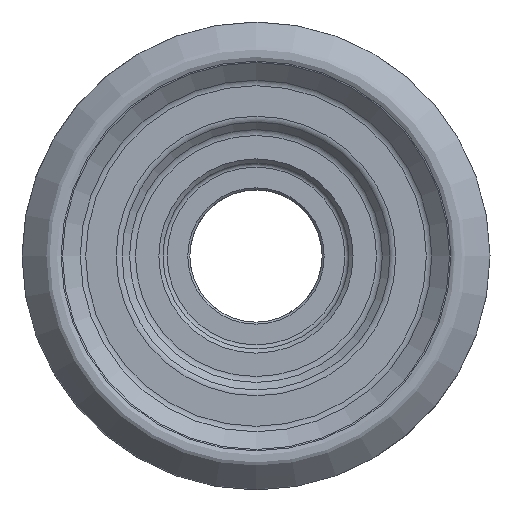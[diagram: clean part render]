
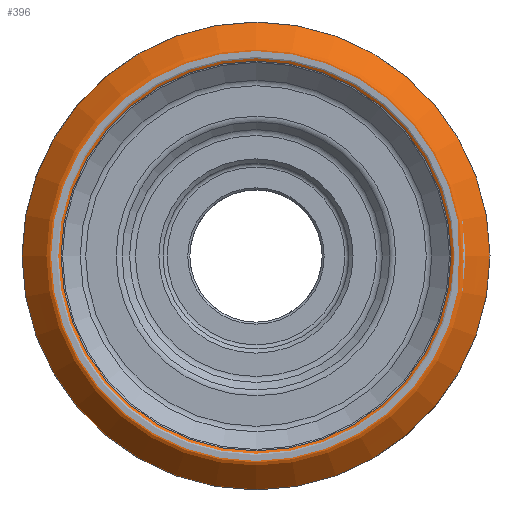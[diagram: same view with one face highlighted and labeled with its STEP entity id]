
A CAD part, left-side view. The second image highlights one B-rep face of the part: STEP entity #396.
In plain terms, the highlighted face is a revolution surface.
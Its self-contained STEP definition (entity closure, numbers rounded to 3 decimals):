
#78=SURFACE_OF_REVOLUTION('',#274,#85);
#85=AXIS1_PLACEMENT('',#1996,#1282);
#92=VERTEX_LOOP('',#822);
#274=B_SPLINE_CURVE_WITH_KNOTS('',3,(#1934,#1935,#1936,#1937,#1938,#1939,
#1940,#1941,#1942,#1943,#1944,#1945,#1946,#1947,#1948,#1949,#1950,#1951,
#1952,#1953,#1954,#1955,#1956,#1957,#1958,#1959,#1960,#1961,#1962,#1963,
#1964,#1965,#1966,#1967,#1968,#1969,#1970,#1971,#1972,#1973,#1974,#1975,
#1976,#1977,#1978,#1979,#1980,#1981,#1982,#1983,#1984,#1985,#1986,#1987,
#1988,#1989,#1990,#1991,#1992,#1993,#1994,#1995),.UNSPECIFIED.,.T.,.F.,
(2,2,2,2,2,2,2,2,2,2,2,2,2,2,2,2,2,2,2,2,2,2,2,2,2,2,2,2,2,2,2,2,2),(-0.031,
0.,0.016,0.031,0.047,0.062,
0.094,0.125,0.25,0.281,
0.297,0.312,0.328,0.344,
0.375,0.5,0.516,0.531,
0.562,0.578,0.594,0.625,
0.75,0.781,0.797,0.812,
0.828,0.844,0.875,0.938,0.969,1.,
1.016),.UNSPECIFIED.);
#337=FACE_BOUND('',#92,.T.);
#396=ADVANCED_FACE('',(#337),#78,.T.);
#822=VERTEX_POINT('',#1933);
#1282=DIRECTION('',(-1.,0.,0.));
#1933=CARTESIAN_POINT('',(0.388,-50.712,0.));
#1934=CARTESIAN_POINT('',(0.729,-51.047,0.));
#1935=CARTESIAN_POINT('',(0.217,-50.544,0.));
#1936=CARTESIAN_POINT('',(0.093,-50.334,0.));
#1937=CARTESIAN_POINT('',(-0.029,-49.878,0.));
#1938=CARTESIAN_POINT('',(-0.014,-49.635,0.));
#1939=CARTESIAN_POINT('',(-0.013,-49.161,0.));
#1940=CARTESIAN_POINT('',(-0.013,-48.923,0.));
#1941=CARTESIAN_POINT('',(-0.014,-48.449,0.));
#1942=CARTESIAN_POINT('',(-0.019,-48.206,0.));
#1943=CARTESIAN_POINT('',(0.178,-47.522,0.));
#1944=CARTESIAN_POINT('',(0.54,-47.18,0.));
#1945=CARTESIAN_POINT('',(1.155,-46.464,0.));
#1946=CARTESIAN_POINT('',(1.463,-46.106,0.));
#1947=CARTESIAN_POINT('',(3.001,-44.317,0.));
#1948=CARTESIAN_POINT('',(4.233,-42.887,0.));
#1949=CARTESIAN_POINT('',(5.773,-41.1,0.));
#1950=CARTESIAN_POINT('',(6.058,-40.684,0.));
#1951=CARTESIAN_POINT('',(6.71,-40.426,0.));
#1952=CARTESIAN_POINT('',(6.951,-40.421,0.));
#1953=CARTESIAN_POINT('',(7.424,-40.385,0.));
#1954=CARTESIAN_POINT('',(7.661,-40.367,0.));
#1955=CARTESIAN_POINT('',(8.134,-40.33,0.));
#1956=CARTESIAN_POINT('',(8.38,-40.318,0.));
#1957=CARTESIAN_POINT('',(8.835,-40.494,0.));
#1958=CARTESIAN_POINT('',(9.016,-40.67,0.));
#1959=CARTESIAN_POINT('',(9.533,-41.193,0.));
#1960=CARTESIAN_POINT('',(9.876,-41.543,0.));
#1961=CARTESIAN_POINT('',(11.59,-43.296,0.));
#1962=CARTESIAN_POINT('',(12.949,-44.71,0.));
#1963=CARTESIAN_POINT('',(14.47,-46.308,0.));
#1964=CARTESIAN_POINT('',(14.654,-46.478,0.));
#1965=CARTESIAN_POINT('',(14.896,-46.897,0.));
#1966=CARTESIAN_POINT('',(14.963,-47.138,0.));
#1967=CARTESIAN_POINT('',(14.979,-47.874,0.));
#1968=CARTESIAN_POINT('',(14.989,-48.365,0.));
#1969=CARTESIAN_POINT('',(14.957,-49.099,0.));
#1970=CARTESIAN_POINT('',(14.883,-49.352,0.));
#1971=CARTESIAN_POINT('',(14.636,-49.777,0.));
#1972=CARTESIAN_POINT('',(14.461,-49.949,0.));
#1973=CARTESIAN_POINT('',(13.975,-50.496,0.));
#1974=CARTESIAN_POINT('',(13.652,-50.861,0.));
#1975=CARTESIAN_POINT('',(12.036,-52.684,0.));
#1976=CARTESIAN_POINT('',(10.747,-54.146,0.));
#1977=CARTESIAN_POINT('',(9.138,-55.976,0.));
#1978=CARTESIAN_POINT('',(8.823,-56.401,0.));
#1979=CARTESIAN_POINT('',(8.127,-56.59,0.));
#1980=CARTESIAN_POINT('',(7.876,-56.58,0.));
#1981=CARTESIAN_POINT('',(7.387,-56.606,0.));
#1982=CARTESIAN_POINT('',(7.142,-56.62,0.));
#1983=CARTESIAN_POINT('',(6.654,-56.65,0.));
#1984=CARTESIAN_POINT('',(6.399,-56.602,0.));
#1985=CARTESIAN_POINT('',(5.968,-56.345,0.));
#1986=CARTESIAN_POINT('',(5.807,-56.151,0.));
#1987=CARTESIAN_POINT('',(5.287,-55.62,0.));
#1988=CARTESIAN_POINT('',(4.94,-55.267,0.));
#1989=CARTESIAN_POINT('',(3.897,-54.208,0.));
#1990=CARTESIAN_POINT('',(3.199,-53.505,0.));
#1991=CARTESIAN_POINT('',(2.148,-52.454,0.));
#1992=CARTESIAN_POINT('',(1.797,-52.105,0.));
#1993=CARTESIAN_POINT('',(1.094,-51.407,0.));
#1994=CARTESIAN_POINT('',(0.729,-51.047,0.));
#1995=CARTESIAN_POINT('',(0.217,-50.544,0.));
#1996=CARTESIAN_POINT('',(0.,0.,0.));
